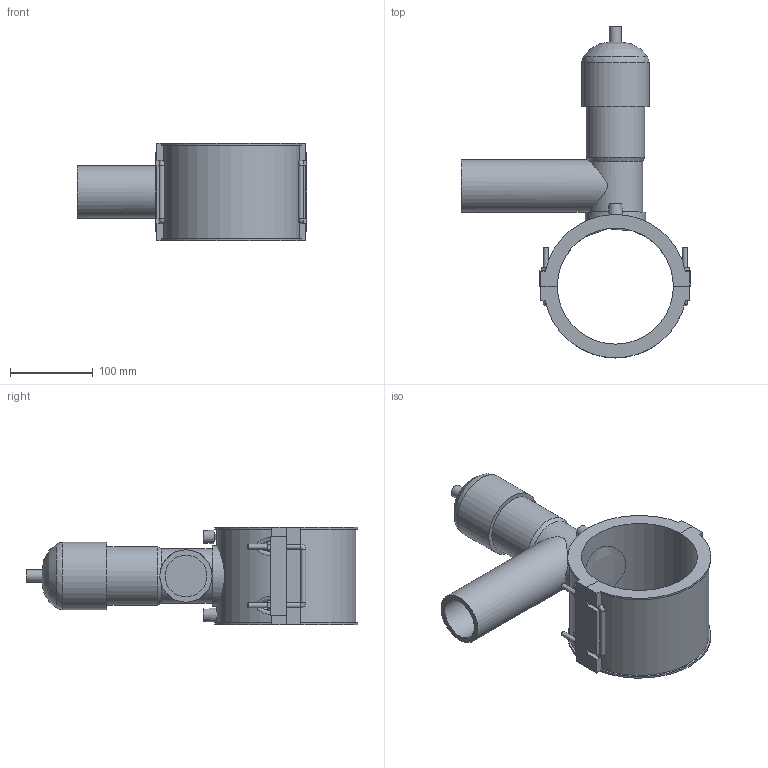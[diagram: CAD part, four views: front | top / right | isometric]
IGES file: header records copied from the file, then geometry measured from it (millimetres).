
Global section: file name: 495404140063.ipt; native system: Autodesk Inventor 2015; preprocessor: unknown; author: KIM; date: 20171106.094257; units: millimetre
Bounding box: 277 x 400.52 x 118 mm (x, y, z)
Volume: 1918644.4 mm3; surface area: 277796.3 mm2
Topology: 3 solids, 5 shells, 157 faces, 393 edges, 249 vertices
Faces by surface type: plane 93, cylinder 29, revolution 16, bspline 12, cone 7
Full cylindrical faces by diameter (mm): 4 x2, 6 x8, 14.64 x1, 63 x1, 70.76 x1, 73.2 x1, 81.333 x1
